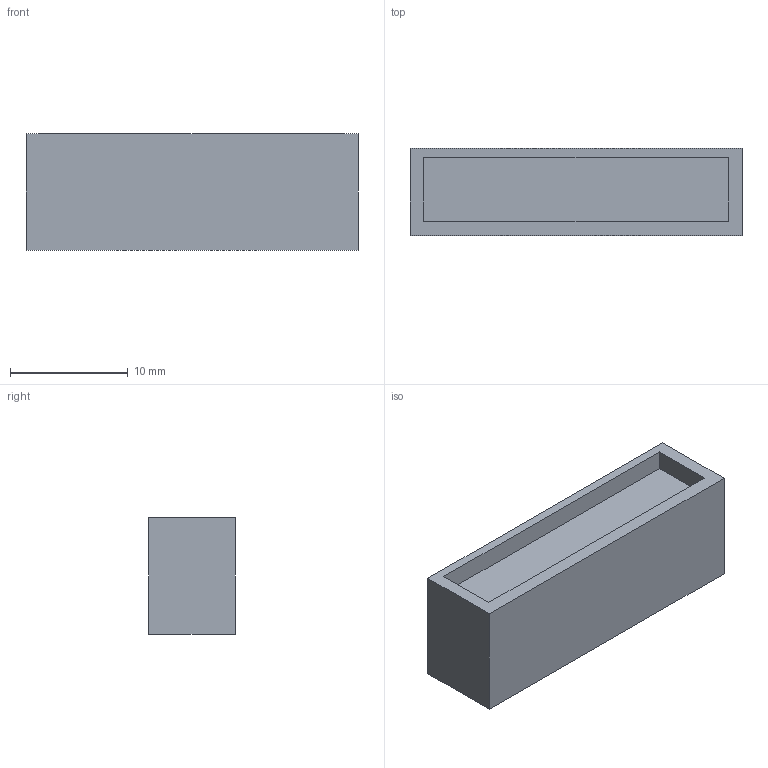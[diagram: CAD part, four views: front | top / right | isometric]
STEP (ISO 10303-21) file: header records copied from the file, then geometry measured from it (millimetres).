
FILE_DESCRIPTION(('Open CASCADE Model'),'2;1');
FILE_NAME('Open CASCADE Shape Model','2000-01-01T00:00:00',('Author'),( 'Open CASCADE'),'Open CASCADE STEP processor 7.9','Open CASCADE 7.9' ,'Unknown');
FILE_SCHEMA((''));
Length unit declared in the file: millimetre
Products named in the file (1): Open CASCADE STEP translator 7.9 1
Bounding box: 28.14 x 7.37 x 9.91 mm (x, y, z)
Volume: 1816.6 mm3; surface area: 1225.4 mm2
Topology: 1 solids, 1 shells, 11 faces, 24 edges, 16 vertices
Faces by surface type: plane 11
Entity records: 612 total; most frequent: CARTESIAN_POINT 108, DIRECTION 88, LINE 64, VECTOR 64, ORIENTED_EDGE 48, PCURVE 48, DEFINITIONAL_REPRESENTATION 48, EDGE_CURVE 24
